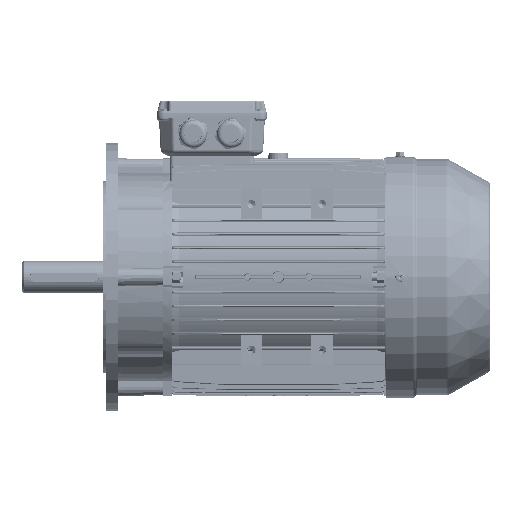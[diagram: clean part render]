
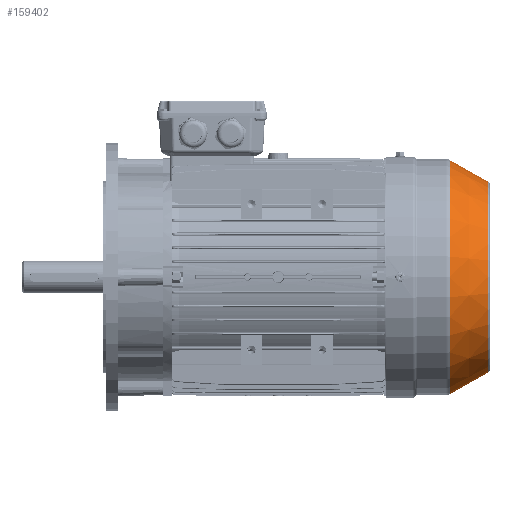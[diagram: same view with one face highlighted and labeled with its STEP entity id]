
A CAD part, top view. The second image highlights one B-rep face of the part: STEP entity #159402.
In plain terms, the highlighted conical face has half-angle 29.472 degrees and reference radius 154 mm.
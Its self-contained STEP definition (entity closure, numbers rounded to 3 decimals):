
#3651 = ORIENTED_EDGE ( 'NONE', *, *, #71801, .T. ) ;
#6049 = VERTEX_POINT ( 'NONE', #178888 ) ;
#7013 = LINE ( 'NONE', #74792, #12791 ) ;
#7310 = CARTESIAN_POINT ( 'NONE',  ( -83.29, -152.706, 0. ) ) ;
#9833 = CARTESIAN_POINT ( 'NONE',  ( -133.46, 124.353, 0. ) ) ;
#12791 = VECTOR ( 'NONE', #168474, 1000. ) ;
#31569 = AXIS2_PLACEMENT_3D ( 'NONE', #61892, #136435, #61113 ) ;
#36738 = DIRECTION ( 'NONE',  ( 1., 0., 0. ) ) ;
#42204 = FACE_OUTER_BOUND ( 'NONE', #198066, .T. ) ;
#44003 = EDGE_CURVE ( 'NONE', #124810, #6049, #88684, .T. ) ;
#50139 = AXIS2_PLACEMENT_3D ( 'NONE', #177957, #175600, #177160 ) ;
#56628 = VERTEX_POINT ( 'NONE', #193650 ) ;
#61113 = DIRECTION ( 'NONE',  ( 0., -1., 0. ) ) ;
#61892 = CARTESIAN_POINT ( 'NONE',  ( -83.29, 0., 0. ) ) ;
#62302 = ORIENTED_EDGE ( 'NONE', *, *, #100865, .F. ) ;
#71801 = EDGE_CURVE ( 'NONE', #124810, #56628, #93400, .T. ) ;
#74792 = CARTESIAN_POINT ( 'NONE',  ( -81., -154., 0. ) ) ;
#88684 = CIRCLE ( 'NONE', #50139, 124.353 ) ;
#91081 = AXIS2_PLACEMENT_3D ( 'NONE', #148001, #36738, #202375 ) ;
#93400 = LINE ( 'NONE', #147408, #133716 ) ;
#96918 = ORIENTED_EDGE ( 'NONE', *, *, #220306, .T. ) ;
#100279 = ORIENTED_EDGE ( 'NONE', *, *, #44003, .F. ) ;
#100865 = EDGE_CURVE ( 'NONE', #6049, #214572, #7013, .T. ) ;
#111075 = CONICAL_SURFACE ( 'NONE', #91081, 154., 0.514 ) ;
#124810 = VERTEX_POINT ( 'NONE', #9833 ) ;
#133716 = VECTOR ( 'NONE', #184916, 1000. ) ;
#136435 = DIRECTION ( 'NONE',  ( -1., 0., 0. ) ) ;
#147408 = CARTESIAN_POINT ( 'NONE',  ( -81., 154., 0. ) ) ;
#148001 = CARTESIAN_POINT ( 'NONE',  ( -81., 0., 0. ) ) ;
#159402 = ADVANCED_FACE ( 'NONE', ( #42204 ), #111075, .T. ) ;
#161175 = CIRCLE ( 'NONE', #31569, 152.706 ) ;
#168474 = DIRECTION ( 'NONE',  ( 0.871, -0.492, 0. ) ) ;
#175600 = DIRECTION ( 'NONE',  ( -1., 0., 0. ) ) ;
#177160 = DIRECTION ( 'NONE',  ( 0., -1., 0. ) ) ;
#177957 = CARTESIAN_POINT ( 'NONE',  ( -133.46, 0., 0. ) ) ;
#178888 = CARTESIAN_POINT ( 'NONE',  ( -133.46, -124.353, 0. ) ) ;
#184916 = DIRECTION ( 'NONE',  ( 0.871, 0.492, 0. ) ) ;
#193650 = CARTESIAN_POINT ( 'NONE',  ( -83.29, 152.706, 0. ) ) ;
#198066 = EDGE_LOOP ( 'NONE', ( #62302, #100279, #3651, #96918 ) ) ;
#202375 = DIRECTION ( 'NONE',  ( 0., 1., 0. ) ) ;
#214572 = VERTEX_POINT ( 'NONE', #7310 ) ;
#220306 = EDGE_CURVE ( 'NONE', #56628, #214572, #161175, .T. ) ;
